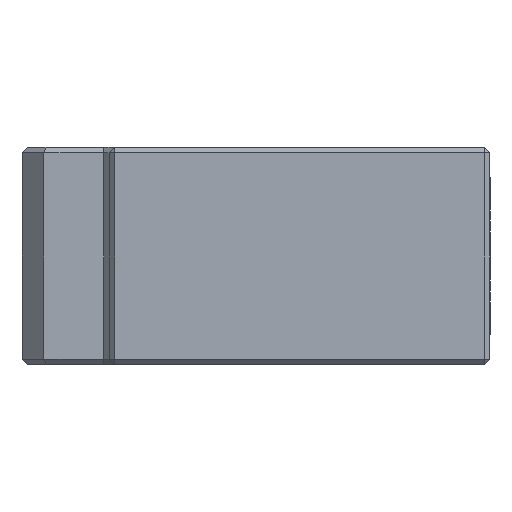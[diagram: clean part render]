
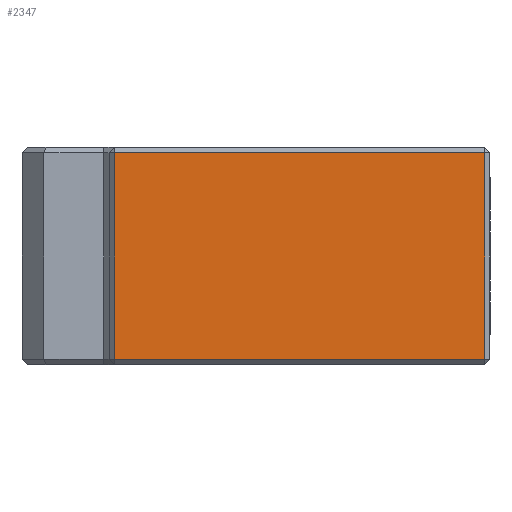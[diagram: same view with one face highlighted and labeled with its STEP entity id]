
A CAD part, left-side view. The second image highlights one B-rep face of the part: STEP entity #2347.
In plain terms, the highlighted planar face has unit normal (-1, 0, 0).
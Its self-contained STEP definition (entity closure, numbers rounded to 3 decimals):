
#32 = VECTOR ( 'NONE', #1694, 1000. ) ;
#37 = VECTOR ( 'NONE', #1273, 1000. ) ;
#45 = VECTOR ( 'NONE', #1264, 1000. ) ;
#245 = VECTOR ( 'NONE', #1276, 1000. ) ;
#443 = EDGE_CURVE ( 'NONE', #2876, #2877, #1262, .T. ) ;
#446 = EDGE_CURVE ( 'NONE', #2874, #2875, #1271, .T. ) ;
#447 = EDGE_CURVE ( 'NONE', #2877, #2874, #1274, .T. ) ;
#469 = EDGE_CURVE ( 'NONE', #2875, #2876, #1692, .T. ) ;
#663 = FACE_OUTER_BOUND ( 'NONE', #3225, .T. ) ;
#678 = AXIS2_PLACEMENT_3D ( 'NONE', #1650, #1651, #1652 ) ;
#1003 = CARTESIAN_POINT ( 'NONE',  ( -35., 9.5, 9.5 ) ) ;
#1004 = CARTESIAN_POINT ( 'NONE',  ( -35., 9.5, -9.5 ) ) ;
#1005 = CARTESIAN_POINT ( 'NONE',  ( -35., -24.5, -9.5 ) ) ;
#1006 = CARTESIAN_POINT ( 'NONE',  ( -35., -24.5, 9.5 ) ) ;
#1262 = LINE ( 'NONE', #1263, #45 ) ;
#1263 = CARTESIAN_POINT ( 'NONE',  ( -35., -24.5, 10. ) ) ;
#1264 = DIRECTION ( 'NONE',  ( 0., 0., 1. ) ) ;
#1271 = LINE ( 'NONE', #1272, #37 ) ;
#1272 = CARTESIAN_POINT ( 'NONE',  ( -35., 9.5, 10. ) ) ;
#1273 = DIRECTION ( 'NONE',  ( 0., 0., -1. ) ) ;
#1274 = LINE ( 'NONE', #1275, #245 ) ;
#1275 = CARTESIAN_POINT ( 'NONE',  ( -35., -25., 9.5 ) ) ;
#1276 = DIRECTION ( 'NONE',  ( 0., 1., 0. ) ) ;
#1649 = PLANE ( 'NONE',  #678 ) ;
#1650 = CARTESIAN_POINT ( 'NONE',  ( -35., -25., 10. ) ) ;
#1651 = DIRECTION ( 'NONE',  ( 1., 0., 0. ) ) ;
#1652 = DIRECTION ( 'NONE',  ( 0., 0., -1. ) ) ;
#1692 = LINE ( 'NONE', #1693, #32 ) ;
#1693 = CARTESIAN_POINT ( 'NONE',  ( -35., -25., -9.5 ) ) ;
#1694 = DIRECTION ( 'NONE',  ( 0., -1., 0. ) ) ;
#2347 = ADVANCED_FACE ( 'NONE', ( #663 ), #1649, .F. ) ;
#2874 = VERTEX_POINT ( 'NONE', #1003 ) ;
#2875 = VERTEX_POINT ( 'NONE', #1004 ) ;
#2876 = VERTEX_POINT ( 'NONE', #1005 ) ;
#2877 = VERTEX_POINT ( 'NONE', #1006 ) ;
#3225 = EDGE_LOOP ( 'NONE', ( #3883, #3885, #3884, #3886 ) ) ;
#3883 = ORIENTED_EDGE ( 'NONE', *, *, #446, .T. ) ;
#3884 = ORIENTED_EDGE ( 'NONE', *, *, #443, .T. ) ;
#3885 = ORIENTED_EDGE ( 'NONE', *, *, #469, .T. ) ;
#3886 = ORIENTED_EDGE ( 'NONE', *, *, #447, .T. ) ;
